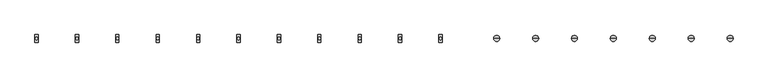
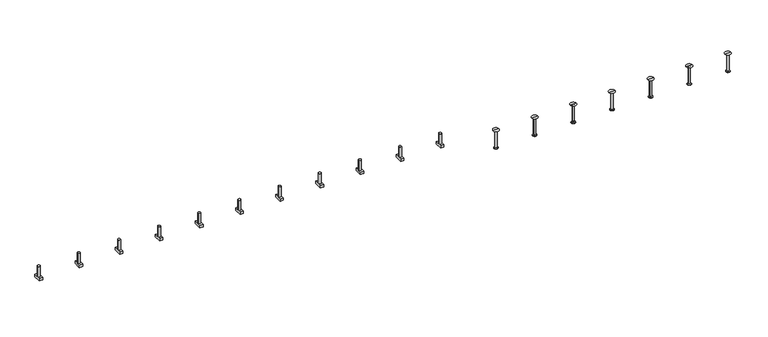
"""IFC4 building model written with IfcOpenShell, lengths in millimetres: fastener geometry, JTA-K JORDAHL® AnchorChannels : JTA-K L=6000 mm."""

from ifc_helpers import new_model, si_unit, frame, origin, place, context, project, spatial, polyline, circle_curve, source, transform, mapped, element, save
from ifc_brep_helpers import plane_surface, cylinder_surface, revolved_surface, advanced_brep


def fastener_c084cefd(model_context):
    return source(origin(), model_context, "Body", "AdvancedBrep", [
        advanced_brep(
        [(3474.3421053, -29.0, -6.0), (3474.3421053, -29.0, -26.0), (3474.3421053, 29.0, -26.0), (3474.3421053, 29.0, -6.0), (3449.3421053, -29.0, -6.0), (3449.3421053, 29.0, -6.0), (3449.3421053, 29.0, -26.0), (3449.3421053, -29.0, -26.0), (3471.8421053, 0.0, -6.0), (3451.8421053, 0.0, -6.0), (3451.8421053, 0.0, 74.0), (3471.8421053, 0.0, 74.0)],
        [
            (0, 1),
            (1, 2),
            (2, 3),
            (3, 0),
            (4, 5),
            (5, 6),
            (6, 7),
            (7, 4),
            (3, 5),
            (4, 0),
            (8, 9, circle_curve(frame((3461.8421053, 0.0, -6.0), z_axis=(0.0, 0.0, -1.0), x_axis=(1.0, 0.0, 0.0)), 10.0)),
            (9, 8, circle_curve(frame((3461.8421053, 0.0, -6.0), z_axis=(0.0, 0.0, -1.0), x_axis=(1.0, 0.0, 0.0)), 10.0)),
            (2, 6),
            (1, 7),
            (10, 11, circle_curve(frame((3461.8421053, 0.0, 74.0), z_axis=(0.0, 0.0, 1.0), x_axis=(1.0, 0.0, 0.0)), 10.0)),
            (11, 10, circle_curve(frame((3461.8421053, 0.0, 74.0), z_axis=(0.0, 0.0, 1.0), x_axis=(1.0, 0.0, 0.0)), 10.0)),
            (11, 8),
            (9, 10),
        ],
        [
            plane_surface(frame((3474.3421053, 29.0, -6.0), z_axis=(1.0, 0.0, 0.0), x_axis=(0.0, 1.0, 0.0))),
            plane_surface(frame((3449.3421053, 29.0, -6.0), z_axis=(-1.0, 0.0, 0.0), x_axis=(0.0, -1.0, 0.0))),
            plane_surface(frame((3474.3421053, -29.0, -6.0), z_axis=(0.0, 0.0, 1.0), x_axis=(-1.0, 0.0, 0.0))),
            plane_surface(frame((3474.3421053, 29.0, -6.0), z_axis=(0.0, 1.0, 0.0), x_axis=(-1.0, 0.0, 0.0))),
            plane_surface(frame((3474.3421053, 29.0, -26.0), z_axis=(0.0, 0.0, -1.0), x_axis=(-1.0, 0.0, 0.0))),
            plane_surface(frame((3474.3421053, -29.0, -26.0), z_axis=(0.0, -1.0, 0.0), x_axis=(-1.0, 0.0, 0.0))),
            plane_surface(frame((3471.8421053, 0.0, 74.0), z_axis=(0.0, 0.0, 1.0), x_axis=(0.0, -1.0, 0.0))),
            cylinder_surface(frame((3461.8421053, 0.0, -6.0), z_axis=(0.0, 0.0, 1.0), x_axis=(1.0, 0.0, 0.0)), 10.0),
        ],
        [
            (0, [[1, 2, 3, 4]]),
            (1, [[5, 6, 7, 8]]),
            (2, [[9, -5, 10, -4], [11, 12]]),
            (3, [[13, -6, -9, -3]]),
            (4, [[14, -7, -13, -2]]),
            (5, [[-10, -8, -14, -1]]),
            (6, [[15, 16]]),
            (7, [[17, -12, 18, -16]]),
            (7, [[-18, -11, -17, -15]]),
        ],
    ),
        advanced_brep(
        [(3166.4473684, -29.0, -6.0), (3166.4473684, -29.0, -26.0), (3166.4473684, 29.0, -26.0), (3166.4473684, 29.0, -6.0), (3141.4473684, -29.0, -6.0), (3141.4473684, 29.0, -6.0), (3141.4473684, 29.0, -26.0), (3141.4473684, -29.0, -26.0), (3163.9473684, 0.0, -6.0), (3143.9473684, 0.0, -6.0), (3143.9473684, 0.0, 74.0), (3163.9473684, 0.0, 74.0)],
        [
            (0, 1),
            (1, 2),
            (2, 3),
            (3, 0),
            (4, 5),
            (5, 6),
            (6, 7),
            (7, 4),
            (3, 5),
            (4, 0),
            (8, 9, circle_curve(frame((3153.9473684, 0.0, -6.0), z_axis=(0.0, 0.0, -1.0), x_axis=(1.0, 0.0, 0.0)), 10.0)),
            (9, 8, circle_curve(frame((3153.9473684, 0.0, -6.0), z_axis=(0.0, 0.0, -1.0), x_axis=(1.0, 0.0, 0.0)), 10.0)),
            (2, 6),
            (1, 7),
            (10, 11, circle_curve(frame((3153.9473684, 0.0, 74.0), z_axis=(0.0, 0.0, 1.0), x_axis=(1.0, 0.0, 0.0)), 10.0)),
            (11, 10, circle_curve(frame((3153.9473684, 0.0, 74.0), z_axis=(0.0, 0.0, 1.0), x_axis=(1.0, 0.0, 0.0)), 10.0)),
            (11, 8),
            (9, 10),
        ],
        [
            plane_surface(frame((3166.4473684, 29.0, -6.0), z_axis=(1.0, 0.0, 0.0), x_axis=(0.0, 1.0, 0.0))),
            plane_surface(frame((3141.4473684, 29.0, -6.0), z_axis=(-1.0, 0.0, 0.0), x_axis=(0.0, -1.0, 0.0))),
            plane_surface(frame((3166.4473684, -29.0, -6.0), z_axis=(0.0, 0.0, 1.0), x_axis=(-1.0, 0.0, 0.0))),
            plane_surface(frame((3166.4473684, 29.0, -6.0), z_axis=(0.0, 1.0, 0.0), x_axis=(-1.0, 0.0, 0.0))),
            plane_surface(frame((3166.4473684, 29.0, -26.0), z_axis=(0.0, 0.0, -1.0), x_axis=(-1.0, 0.0, 0.0))),
            plane_surface(frame((3166.4473684, -29.0, -26.0), z_axis=(0.0, -1.0, 0.0), x_axis=(-1.0, 0.0, 0.0))),
            plane_surface(frame((3163.9473684, 0.0, 74.0), z_axis=(0.0, 0.0, 1.0), x_axis=(0.0, -1.0, 0.0))),
            cylinder_surface(frame((3153.9473684, 0.0, -6.0), z_axis=(0.0, 0.0, 1.0), x_axis=(1.0, 0.0, 0.0)), 10.0),
        ],
        [
            (0, [[1, 2, 3, 4]]),
            (1, [[5, 6, 7, 8]]),
            (2, [[9, -5, 10, -4], [11, 12]]),
            (3, [[13, -6, -9, -3]]),
            (4, [[14, -7, -13, -2]]),
            (5, [[-10, -8, -14, -1]]),
            (6, [[15, 16]]),
            (7, [[17, -12, 18, -16]]),
            (7, [[-18, -11, -17, -15]]),
        ],
    ),
        advanced_brep(
        [(2858.5526316, -29.0, -6.0), (2858.5526316, -29.0, -26.0), (2858.5526316, 29.0, -26.0), (2858.5526316, 29.0, -6.0), (2833.5526316, -29.0, -6.0), (2833.5526316, 29.0, -6.0), (2833.5526316, 29.0, -26.0), (2833.5526316, -29.0, -26.0), (2856.0526316, 0.0, -6.0), (2836.0526316, 0.0, -6.0), (2836.0526316, 0.0, 74.0), (2856.0526316, 0.0, 74.0)],
        [
            (0, 1),
            (1, 2),
            (2, 3),
            (3, 0),
            (4, 5),
            (5, 6),
            (6, 7),
            (7, 4),
            (3, 5),
            (4, 0),
            (8, 9, circle_curve(frame((2846.0526316, 0.0, -6.0), z_axis=(0.0, 0.0, -1.0), x_axis=(1.0, 0.0, 0.0)), 10.0)),
            (9, 8, circle_curve(frame((2846.0526316, 0.0, -6.0), z_axis=(0.0, 0.0, -1.0), x_axis=(1.0, 0.0, 0.0)), 10.0)),
            (2, 6),
            (1, 7),
            (10, 11, circle_curve(frame((2846.0526316, 0.0, 74.0), z_axis=(0.0, 0.0, 1.0), x_axis=(1.0, 0.0, 0.0)), 10.0)),
            (11, 10, circle_curve(frame((2846.0526316, 0.0, 74.0), z_axis=(0.0, 0.0, 1.0), x_axis=(1.0, 0.0, 0.0)), 10.0)),
            (11, 8),
            (9, 10),
        ],
        [
            plane_surface(frame((2858.5526316, 29.0, -6.0), z_axis=(1.0, 0.0, 0.0), x_axis=(0.0, 1.0, 0.0))),
            plane_surface(frame((2833.5526316, 29.0, -6.0), z_axis=(-1.0, 0.0, 0.0), x_axis=(0.0, -1.0, 0.0))),
            plane_surface(frame((2858.5526316, -29.0, -6.0), z_axis=(0.0, 0.0, 1.0), x_axis=(-1.0, 0.0, 0.0))),
            plane_surface(frame((2858.5526316, 29.0, -6.0), z_axis=(0.0, 1.0, 0.0), x_axis=(-1.0, 0.0, 0.0))),
            plane_surface(frame((2858.5526316, 29.0, -26.0), z_axis=(0.0, 0.0, -1.0), x_axis=(-1.0, 0.0, 0.0))),
            plane_surface(frame((2858.5526316, -29.0, -26.0), z_axis=(0.0, -1.0, 0.0), x_axis=(-1.0, 0.0, 0.0))),
            plane_surface(frame((2856.0526316, 0.0, 74.0), z_axis=(0.0, 0.0, 1.0), x_axis=(0.0, -1.0, 0.0))),
            cylinder_surface(frame((2846.0526316, 0.0, -6.0), z_axis=(0.0, 0.0, 1.0), x_axis=(1.0, 0.0, 0.0)), 10.0),
        ],
        [
            (0, [[1, 2, 3, 4]]),
            (1, [[5, 6, 7, 8]]),
            (2, [[9, -5, 10, -4], [11, 12]]),
            (3, [[13, -6, -9, -3]]),
            (4, [[14, -7, -13, -2]]),
            (5, [[-10, -8, -14, -1]]),
            (6, [[15, 16]]),
            (7, [[17, -12, 18, -16]]),
            (7, [[-18, -11, -17, -15]]),
        ],
    ),
        advanced_brep(
        [(2550.6578947, -29.0, -6.0), (2550.6578947, -29.0, -26.0), (2550.6578947, 29.0, -26.0), (2550.6578947, 29.0, -6.0), (2525.6578947, -29.0, -6.0), (2525.6578947, 29.0, -6.0), (2525.6578947, 29.0, -26.0), (2525.6578947, -29.0, -26.0), (2548.1578947, 0.0, -6.0), (2528.1578947, 0.0, -6.0), (2528.1578947, 0.0, 74.0), (2548.1578947, 0.0, 74.0)],
        [
            (0, 1),
            (1, 2),
            (2, 3),
            (3, 0),
            (4, 5),
            (5, 6),
            (6, 7),
            (7, 4),
            (3, 5),
            (4, 0),
            (8, 9, circle_curve(frame((2538.1578947, 0.0, -6.0), z_axis=(0.0, 0.0, -1.0), x_axis=(1.0, 0.0, 0.0)), 10.0)),
            (9, 8, circle_curve(frame((2538.1578947, 0.0, -6.0), z_axis=(0.0, 0.0, -1.0), x_axis=(1.0, 0.0, 0.0)), 10.0)),
            (2, 6),
            (1, 7),
            (10, 11, circle_curve(frame((2538.1578947, 0.0, 74.0), z_axis=(0.0, 0.0, 1.0), x_axis=(1.0, 0.0, 0.0)), 10.0)),
            (11, 10, circle_curve(frame((2538.1578947, 0.0, 74.0), z_axis=(0.0, 0.0, 1.0), x_axis=(1.0, 0.0, 0.0)), 10.0)),
            (11, 8),
            (9, 10),
        ],
        [
            plane_surface(frame((2550.6578947, 29.0, -6.0), z_axis=(1.0, 0.0, 0.0), x_axis=(0.0, 1.0, 0.0))),
            plane_surface(frame((2525.6578947, 29.0, -6.0), z_axis=(-1.0, 0.0, 0.0), x_axis=(0.0, -1.0, 0.0))),
            plane_surface(frame((2550.6578947, -29.0, -6.0), z_axis=(0.0, 0.0, 1.0), x_axis=(-1.0, 0.0, 0.0))),
            plane_surface(frame((2550.6578947, 29.0, -6.0), z_axis=(0.0, 1.0, 0.0), x_axis=(-1.0, 0.0, 0.0))),
            plane_surface(frame((2550.6578947, 29.0, -26.0), z_axis=(0.0, 0.0, -1.0), x_axis=(-1.0, 0.0, 0.0))),
            plane_surface(frame((2550.6578947, -29.0, -26.0), z_axis=(0.0, -1.0, 0.0), x_axis=(-1.0, 0.0, 0.0))),
            plane_surface(frame((2548.1578947, 0.0, 74.0), z_axis=(0.0, 0.0, 1.0), x_axis=(0.0, -1.0, 0.0))),
            cylinder_surface(frame((2538.1578947, 0.0, -6.0), z_axis=(0.0, 0.0, 1.0), x_axis=(1.0, 0.0, 0.0)), 10.0),
        ],
        [
            (0, [[1, 2, 3, 4]]),
            (1, [[5, 6, 7, 8]]),
            (2, [[9, -5, 10, -4], [11, 12]]),
            (3, [[13, -6, -9, -3]]),
            (4, [[14, -7, -13, -2]]),
            (5, [[-10, -8, -14, -1]]),
            (6, [[15, 16]]),
            (7, [[17, -12, 18, -16]]),
            (7, [[-18, -11, -17, -15]]),
        ],
    ),
        advanced_brep(
        [(2242.7631579, -29.0, -6.0), (2242.7631579, -29.0, -26.0), (2242.7631579, 29.0, -26.0), (2242.7631579, 29.0, -6.0), (2217.7631579, -29.0, -6.0), (2217.7631579, 29.0, -6.0), (2217.7631579, 29.0, -26.0), (2217.7631579, -29.0, -26.0), (2240.2631579, 0.0, -6.0), (2220.2631579, 0.0, -6.0), (2220.2631579, 0.0, 74.0), (2240.2631579, 0.0, 74.0)],
        [
            (0, 1),
            (1, 2),
            (2, 3),
            (3, 0),
            (4, 5),
            (5, 6),
            (6, 7),
            (7, 4),
            (3, 5),
            (4, 0),
            (8, 9, circle_curve(frame((2230.2631579, 0.0, -6.0), z_axis=(0.0, 0.0, -1.0), x_axis=(1.0, 0.0, 0.0)), 10.0)),
            (9, 8, circle_curve(frame((2230.2631579, 0.0, -6.0), z_axis=(0.0, 0.0, -1.0), x_axis=(1.0, 0.0, 0.0)), 10.0)),
            (2, 6),
            (1, 7),
            (10, 11, circle_curve(frame((2230.2631579, 0.0, 74.0), z_axis=(0.0, 0.0, 1.0), x_axis=(1.0, 0.0, 0.0)), 10.0)),
            (11, 10, circle_curve(frame((2230.2631579, 0.0, 74.0), z_axis=(0.0, 0.0, 1.0), x_axis=(1.0, 0.0, 0.0)), 10.0)),
            (11, 8),
            (9, 10),
        ],
        [
            plane_surface(frame((2242.7631579, 29.0, -6.0), z_axis=(1.0, 0.0, 0.0), x_axis=(0.0, 1.0, 0.0))),
            plane_surface(frame((2217.7631579, 29.0, -6.0), z_axis=(-1.0, 0.0, 0.0), x_axis=(0.0, -1.0, 0.0))),
            plane_surface(frame((2242.7631579, -29.0, -6.0), z_axis=(0.0, 0.0, 1.0), x_axis=(-1.0, 0.0, 0.0))),
            plane_surface(frame((2242.7631579, 29.0, -6.0), z_axis=(0.0, 1.0, 0.0), x_axis=(-1.0, 0.0, 0.0))),
            plane_surface(frame((2242.7631579, 29.0, -26.0), z_axis=(0.0, 0.0, -1.0), x_axis=(-1.0, 0.0, 0.0))),
            plane_surface(frame((2242.7631579, -29.0, -26.0), z_axis=(0.0, -1.0, 0.0), x_axis=(-1.0, 0.0, 0.0))),
            plane_surface(frame((2240.2631579, 0.0, 74.0), z_axis=(0.0, 0.0, 1.0), x_axis=(0.0, -1.0, 0.0))),
            cylinder_surface(frame((2230.2631579, 0.0, -6.0), z_axis=(0.0, 0.0, 1.0), x_axis=(1.0, 0.0, 0.0)), 10.0),
        ],
        [
            (0, [[1, 2, 3, 4]]),
            (1, [[5, 6, 7, 8]]),
            (2, [[9, -5, 10, -4], [11, 12]]),
            (3, [[13, -6, -9, -3]]),
            (4, [[14, -7, -13, -2]]),
            (5, [[-10, -8, -14, -1]]),
            (6, [[15, 16]]),
            (7, [[17, -12, 18, -16]]),
            (7, [[-18, -11, -17, -15]]),
        ],
    ),
        advanced_brep(
        [(1934.8684211, -29.0, -6.0), (1934.8684211, -29.0, -26.0), (1934.8684211, 29.0, -26.0), (1934.8684211, 29.0, -6.0), (1909.8684211, -29.0, -6.0), (1909.8684211, 29.0, -6.0), (1909.8684211, 29.0, -26.0), (1909.8684211, -29.0, -26.0), (1932.3684211, 0.0, -6.0), (1912.3684211, 0.0, -6.0), (1912.3684211, 0.0, 74.0), (1932.3684211, 0.0, 74.0)],
        [
            (0, 1),
            (1, 2),
            (2, 3),
            (3, 0),
            (4, 5),
            (5, 6),
            (6, 7),
            (7, 4),
            (3, 5),
            (4, 0),
            (8, 9, circle_curve(frame((1922.3684211, 0.0, -6.0), z_axis=(0.0, 0.0, -1.0), x_axis=(1.0, 0.0, 0.0)), 10.0)),
            (9, 8, circle_curve(frame((1922.3684211, 0.0, -6.0), z_axis=(0.0, 0.0, -1.0), x_axis=(1.0, 0.0, 0.0)), 10.0)),
            (2, 6),
            (1, 7),
            (10, 11, circle_curve(frame((1922.3684211, 0.0, 74.0), z_axis=(0.0, 0.0, 1.0), x_axis=(1.0, 0.0, 0.0)), 10.0)),
            (11, 10, circle_curve(frame((1922.3684211, 0.0, 74.0), z_axis=(0.0, 0.0, 1.0), x_axis=(1.0, 0.0, 0.0)), 10.0)),
            (11, 8),
            (9, 10),
        ],
        [
            plane_surface(frame((1934.8684211, 29.0, -6.0), z_axis=(1.0, 0.0, 0.0), x_axis=(0.0, 1.0, 0.0))),
            plane_surface(frame((1909.8684211, 29.0, -6.0), z_axis=(-1.0, 0.0, 0.0), x_axis=(0.0, -1.0, 0.0))),
            plane_surface(frame((1934.8684211, -29.0, -6.0), z_axis=(0.0, 0.0, 1.0), x_axis=(-1.0, 0.0, 0.0))),
            plane_surface(frame((1934.8684211, 29.0, -6.0), z_axis=(0.0, 1.0, 0.0), x_axis=(-1.0, 0.0, 0.0))),
            plane_surface(frame((1934.8684211, 29.0, -26.0), z_axis=(0.0, 0.0, -1.0), x_axis=(-1.0, 0.0, 0.0))),
            plane_surface(frame((1934.8684211, -29.0, -26.0), z_axis=(0.0, -1.0, 0.0), x_axis=(-1.0, 0.0, 0.0))),
            plane_surface(frame((1932.3684211, 0.0, 74.0), z_axis=(0.0, 0.0, 1.0), x_axis=(0.0, -1.0, 0.0))),
            cylinder_surface(frame((1922.3684211, 0.0, -6.0), z_axis=(0.0, 0.0, 1.0), x_axis=(1.0, 0.0, 0.0)), 10.0),
        ],
        [
            (0, [[1, 2, 3, 4]]),
            (1, [[5, 6, 7, 8]]),
            (2, [[9, -5, 10, -4], [11, 12]]),
            (3, [[13, -6, -9, -3]]),
            (4, [[14, -7, -13, -2]]),
            (5, [[-10, -8, -14, -1]]),
            (6, [[15, 16]]),
            (7, [[17, -12, 18, -16]]),
            (7, [[-18, -11, -17, -15]]),
        ],
    ),
        advanced_brep(
        [(1626.9736842, -29.0, -6.0), (1626.9736842, -29.0, -26.0), (1626.9736842, 29.0, -26.0), (1626.9736842, 29.0, -6.0), (1601.9736842, -29.0, -6.0), (1601.9736842, 29.0, -6.0), (1601.9736842, 29.0, -26.0), (1601.9736842, -29.0, -26.0), (1624.4736842, 0.0, -6.0), (1604.4736842, 0.0, -6.0), (1604.4736842, 0.0, 74.0), (1624.4736842, 0.0, 74.0)],
        [
            (0, 1),
            (1, 2),
            (2, 3),
            (3, 0),
            (4, 5),
            (5, 6),
            (6, 7),
            (7, 4),
            (3, 5),
            (4, 0),
            (8, 9, circle_curve(frame((1614.4736842, 0.0, -6.0), z_axis=(0.0, 0.0, -1.0), x_axis=(1.0, 0.0, 0.0)), 10.0)),
            (9, 8, circle_curve(frame((1614.4736842, 0.0, -6.0), z_axis=(0.0, 0.0, -1.0), x_axis=(1.0, 0.0, 0.0)), 10.0)),
            (2, 6),
            (1, 7),
            (10, 11, circle_curve(frame((1614.4736842, 0.0, 74.0), z_axis=(0.0, 0.0, 1.0), x_axis=(1.0, 0.0, 0.0)), 10.0)),
            (11, 10, circle_curve(frame((1614.4736842, 0.0, 74.0), z_axis=(0.0, 0.0, 1.0), x_axis=(1.0, 0.0, 0.0)), 10.0)),
            (11, 8),
            (9, 10),
        ],
        [
            plane_surface(frame((1626.9736842, 29.0, -6.0), z_axis=(1.0, 0.0, 0.0), x_axis=(0.0, 1.0, 0.0))),
            plane_surface(frame((1601.9736842, 29.0, -6.0), z_axis=(-1.0, 0.0, 0.0), x_axis=(0.0, -1.0, 0.0))),
            plane_surface(frame((1626.9736842, -29.0, -6.0), z_axis=(0.0, 0.0, 1.0), x_axis=(-1.0, 0.0, 0.0))),
            plane_surface(frame((1626.9736842, 29.0, -6.0), z_axis=(0.0, 1.0, 0.0), x_axis=(-1.0, 0.0, 0.0))),
            plane_surface(frame((1626.9736842, 29.0, -26.0), z_axis=(0.0, 0.0, -1.0), x_axis=(-1.0, 0.0, 0.0))),
            plane_surface(frame((1626.9736842, -29.0, -26.0), z_axis=(0.0, -1.0, 0.0), x_axis=(-1.0, 0.0, 0.0))),
            plane_surface(frame((1624.4736842, 0.0, 74.0), z_axis=(0.0, 0.0, 1.0), x_axis=(0.0, -1.0, 0.0))),
            cylinder_surface(frame((1614.4736842, 0.0, -6.0), z_axis=(0.0, 0.0, 1.0), x_axis=(1.0, 0.0, 0.0)), 10.0),
        ],
        [
            (0, [[1, 2, 3, 4]]),
            (1, [[5, 6, 7, 8]]),
            (2, [[9, -5, 10, -4], [11, 12]]),
            (3, [[13, -6, -9, -3]]),
            (4, [[14, -7, -13, -2]]),
            (5, [[-10, -8, -14, -1]]),
            (6, [[15, 16]]),
            (7, [[17, -12, 18, -16]]),
            (7, [[-18, -11, -17, -15]]),
        ],
    ),
        advanced_brep(
        [(1319.0789474, -29.0, -6.0), (1319.0789474, -29.0, -26.0), (1319.0789474, 29.0, -26.0), (1319.0789474, 29.0, -6.0), (1294.0789474, -29.0, -6.0), (1294.0789474, 29.0, -6.0), (1294.0789474, 29.0, -26.0), (1294.0789474, -29.0, -26.0), (1316.5789474, 0.0, -6.0), (1296.5789474, 0.0, -6.0), (1296.5789474, 0.0, 74.0), (1316.5789474, 0.0, 74.0)],
        [
            (0, 1),
            (1, 2),
            (2, 3),
            (3, 0),
            (4, 5),
            (5, 6),
            (6, 7),
            (7, 4),
            (3, 5),
            (4, 0),
            (8, 9, circle_curve(frame((1306.5789474, 0.0, -6.0), z_axis=(0.0, 0.0, -1.0), x_axis=(1.0, 0.0, 0.0)), 10.0)),
            (9, 8, circle_curve(frame((1306.5789474, 0.0, -6.0), z_axis=(0.0, 0.0, -1.0), x_axis=(1.0, 0.0, 0.0)), 10.0)),
            (2, 6),
            (1, 7),
            (10, 11, circle_curve(frame((1306.5789474, 0.0, 74.0), z_axis=(0.0, 0.0, 1.0), x_axis=(1.0, 0.0, 0.0)), 10.0)),
            (11, 10, circle_curve(frame((1306.5789474, 0.0, 74.0), z_axis=(0.0, 0.0, 1.0), x_axis=(1.0, 0.0, 0.0)), 10.0)),
            (11, 8),
            (9, 10),
        ],
        [
            plane_surface(frame((1319.0789474, 29.0, -6.0), z_axis=(1.0, 0.0, 0.0), x_axis=(0.0, 1.0, 0.0))),
            plane_surface(frame((1294.0789474, 29.0, -6.0), z_axis=(-1.0, 0.0, 0.0), x_axis=(0.0, -1.0, 0.0))),
            plane_surface(frame((1319.0789474, -29.0, -6.0), z_axis=(0.0, 0.0, 1.0), x_axis=(-1.0, 0.0, 0.0))),
            plane_surface(frame((1319.0789474, 29.0, -6.0), z_axis=(0.0, 1.0, 0.0), x_axis=(-1.0, 0.0, 0.0))),
            plane_surface(frame((1319.0789474, 29.0, -26.0), z_axis=(0.0, 0.0, -1.0), x_axis=(-1.0, 0.0, 0.0))),
            plane_surface(frame((1319.0789474, -29.0, -26.0), z_axis=(0.0, -1.0, 0.0), x_axis=(-1.0, 0.0, 0.0))),
            plane_surface(frame((1316.5789474, 0.0, 74.0), z_axis=(0.0, 0.0, 1.0), x_axis=(0.0, -1.0, 0.0))),
            cylinder_surface(frame((1306.5789474, 0.0, -6.0), z_axis=(0.0, 0.0, 1.0), x_axis=(1.0, 0.0, 0.0)), 10.0),
        ],
        [
            (0, [[1, 2, 3, 4]]),
            (1, [[5, 6, 7, 8]]),
            (2, [[9, -5, 10, -4], [11, 12]]),
            (3, [[13, -6, -9, -3]]),
            (4, [[14, -7, -13, -2]]),
            (5, [[-10, -8, -14, -1]]),
            (6, [[15, 16]]),
            (7, [[17, -12, 18, -16]]),
            (7, [[-18, -11, -17, -15]]),
        ],
    ),
        advanced_brep(
        [(1011.1842105, -29.0, -6.0), (1011.1842105, -29.0, -26.0), (1011.1842105, 29.0, -26.0), (1011.1842105, 29.0, -6.0), (986.1842105, -29.0, -6.0), (986.1842105, 29.0, -6.0), (986.1842105, 29.0, -26.0), (986.1842105, -29.0, -26.0), (1008.6842105, 0.0, -6.0), (988.6842105, 0.0, -6.0), (988.6842105, 0.0, 74.0), (1008.6842105, 0.0, 74.0)],
        [
            (0, 1),
            (1, 2),
            (2, 3),
            (3, 0),
            (4, 5),
            (5, 6),
            (6, 7),
            (7, 4),
            (3, 5),
            (4, 0),
            (8, 9, circle_curve(frame((998.6842105, 0.0, -6.0), z_axis=(0.0, 0.0, -1.0), x_axis=(1.0, 0.0, 0.0)), 10.0)),
            (9, 8, circle_curve(frame((998.6842105, 0.0, -6.0), z_axis=(0.0, 0.0, -1.0), x_axis=(1.0, 0.0, 0.0)), 10.0)),
            (2, 6),
            (1, 7),
            (10, 11, circle_curve(frame((998.6842105, 0.0, 74.0), z_axis=(0.0, 0.0, 1.0), x_axis=(1.0, 0.0, 0.0)), 10.0)),
            (11, 10, circle_curve(frame((998.6842105, 0.0, 74.0), z_axis=(0.0, 0.0, 1.0), x_axis=(1.0, 0.0, 0.0)), 10.0)),
            (11, 8),
            (9, 10),
        ],
        [
            plane_surface(frame((1011.1842105, 29.0, -6.0), z_axis=(1.0, 0.0, 0.0), x_axis=(0.0, 1.0, 0.0))),
            plane_surface(frame((986.1842105, 29.0, -6.0), z_axis=(-1.0, 0.0, 0.0), x_axis=(0.0, -1.0, 0.0))),
            plane_surface(frame((1011.1842105, -29.0, -6.0), z_axis=(0.0, 0.0, 1.0), x_axis=(-1.0, 0.0, 0.0))),
            plane_surface(frame((1011.1842105, 29.0, -6.0), z_axis=(0.0, 1.0, 0.0), x_axis=(-1.0, 0.0, 0.0))),
            plane_surface(frame((1011.1842105, 29.0, -26.0), z_axis=(0.0, 0.0, -1.0), x_axis=(-1.0, 0.0, 0.0))),
            plane_surface(frame((1011.1842105, -29.0, -26.0), z_axis=(0.0, -1.0, 0.0), x_axis=(-1.0, 0.0, 0.0))),
            plane_surface(frame((1008.6842105, 0.0, 74.0), z_axis=(0.0, 0.0, 1.0), x_axis=(0.0, -1.0, 0.0))),
            cylinder_surface(frame((998.6842105, 0.0, -6.0), z_axis=(0.0, 0.0, 1.0), x_axis=(1.0, 0.0, 0.0)), 10.0),
        ],
        [
            (0, [[1, 2, 3, 4]]),
            (1, [[5, 6, 7, 8]]),
            (2, [[9, -5, 10, -4], [11, 12]]),
            (3, [[13, -6, -9, -3]]),
            (4, [[14, -7, -13, -2]]),
            (5, [[-10, -8, -14, -1]]),
            (6, [[15, 16]]),
            (7, [[17, -12, 18, -16]]),
            (7, [[-18, -11, -17, -15]]),
        ],
    ),
        advanced_brep(
        [(703.2894737, -29.0, -6.0), (703.2894737, -29.0, -26.0), (703.2894737, 29.0, -26.0), (703.2894737, 29.0, -6.0), (678.2894737, -29.0, -6.0), (678.2894737, 29.0, -6.0), (678.2894737, 29.0, -26.0), (678.2894737, -29.0, -26.0), (700.7894737, 0.0, -6.0), (680.7894737, 0.0, -6.0), (680.7894737, 0.0, 74.0), (700.7894737, 0.0, 74.0)],
        [
            (0, 1),
            (1, 2),
            (2, 3),
            (3, 0),
            (4, 5),
            (5, 6),
            (6, 7),
            (7, 4),
            (3, 5),
            (4, 0),
            (8, 9, circle_curve(frame((690.7894737, 0.0, -6.0), z_axis=(0.0, 0.0, -1.0), x_axis=(1.0, 0.0, 0.0)), 10.0)),
            (9, 8, circle_curve(frame((690.7894737, 0.0, -6.0), z_axis=(0.0, 0.0, -1.0), x_axis=(1.0, 0.0, 0.0)), 10.0)),
            (2, 6),
            (1, 7),
            (10, 11, circle_curve(frame((690.7894737, 0.0, 74.0), z_axis=(0.0, 0.0, 1.0), x_axis=(1.0, 0.0, 0.0)), 10.0)),
            (11, 10, circle_curve(frame((690.7894737, 0.0, 74.0), z_axis=(0.0, 0.0, 1.0), x_axis=(1.0, 0.0, 0.0)), 10.0)),
            (11, 8),
            (9, 10),
        ],
        [
            plane_surface(frame((703.2894737, 29.0, -6.0), z_axis=(1.0, 0.0, 0.0), x_axis=(0.0, 1.0, 0.0))),
            plane_surface(frame((678.2894737, 29.0, -6.0), z_axis=(-1.0, 0.0, 0.0), x_axis=(0.0, -1.0, 0.0))),
            plane_surface(frame((703.2894737, -29.0, -6.0), z_axis=(0.0, 0.0, 1.0), x_axis=(-1.0, 0.0, 0.0))),
            plane_surface(frame((703.2894737, 29.0, -6.0), z_axis=(0.0, 1.0, 0.0), x_axis=(-1.0, 0.0, 0.0))),
            plane_surface(frame((703.2894737, 29.0, -26.0), z_axis=(0.0, 0.0, -1.0), x_axis=(-1.0, 0.0, 0.0))),
            plane_surface(frame((703.2894737, -29.0, -26.0), z_axis=(0.0, -1.0, 0.0), x_axis=(-1.0, 0.0, 0.0))),
            plane_surface(frame((700.7894737, 0.0, 74.0), z_axis=(0.0, 0.0, 1.0), x_axis=(0.0, -1.0, 0.0))),
            cylinder_surface(frame((690.7894737, 0.0, -6.0), z_axis=(0.0, 0.0, 1.0), x_axis=(1.0, 0.0, 0.0)), 10.0),
        ],
        [
            (0, [[1, 2, 3, 4]]),
            (1, [[5, 6, 7, 8]]),
            (2, [[9, -5, 10, -4], [11, 12]]),
            (3, [[13, -6, -9, -3]]),
            (4, [[14, -7, -13, -2]]),
            (5, [[-10, -8, -14, -1]]),
            (6, [[15, 16]]),
            (7, [[17, -12, 18, -16]]),
            (7, [[-18, -11, -17, -15]]),
        ],
    ),
        advanced_brep(
        [(395.3947368, -29.0, -6.0), (395.3947368, -29.0, -26.0), (395.3947368, 29.0, -26.0), (395.3947368, 29.0, -6.0), (370.3947368, -29.0, -6.0), (370.3947368, 29.0, -6.0), (370.3947368, 29.0, -26.0), (370.3947368, -29.0, -26.0), (392.8947368, 0.0, -6.0), (372.8947368, 0.0, -6.0), (372.8947368, 0.0, 74.0), (392.8947368, 0.0, 74.0)],
        [
            (0, 1),
            (1, 2),
            (2, 3),
            (3, 0),
            (4, 5),
            (5, 6),
            (6, 7),
            (7, 4),
            (3, 5),
            (4, 0),
            (8, 9, circle_curve(frame((382.8947368, 0.0, -6.0), z_axis=(0.0, 0.0, -1.0), x_axis=(1.0, 0.0, 0.0)), 10.0)),
            (9, 8, circle_curve(frame((382.8947368, 0.0, -6.0), z_axis=(0.0, 0.0, -1.0), x_axis=(1.0, 0.0, 0.0)), 10.0)),
            (2, 6),
            (1, 7),
            (10, 11, circle_curve(frame((382.8947368, 0.0, 74.0), z_axis=(0.0, 0.0, 1.0), x_axis=(1.0, 0.0, 0.0)), 10.0)),
            (11, 10, circle_curve(frame((382.8947368, 0.0, 74.0), z_axis=(0.0, 0.0, 1.0), x_axis=(1.0, 0.0, 0.0)), 10.0)),
            (11, 8),
            (9, 10),
        ],
        [
            plane_surface(frame((395.3947368, 29.0, -6.0), z_axis=(1.0, 0.0, 0.0), x_axis=(0.0, 1.0, 0.0))),
            plane_surface(frame((370.3947368, 29.0, -6.0), z_axis=(-1.0, 0.0, 0.0), x_axis=(0.0, -1.0, 0.0))),
            plane_surface(frame((395.3947368, -29.0, -6.0), z_axis=(0.0, 0.0, 1.0), x_axis=(-1.0, 0.0, 0.0))),
            plane_surface(frame((395.3947368, 29.0, -6.0), z_axis=(0.0, 1.0, 0.0), x_axis=(-1.0, 0.0, 0.0))),
            plane_surface(frame((395.3947368, 29.0, -26.0), z_axis=(0.0, 0.0, -1.0), x_axis=(-1.0, 0.0, 0.0))),
            plane_surface(frame((395.3947368, -29.0, -26.0), z_axis=(0.0, -1.0, 0.0), x_axis=(-1.0, 0.0, 0.0))),
            plane_surface(frame((392.8947368, 0.0, 74.0), z_axis=(0.0, 0.0, 1.0), x_axis=(0.0, -1.0, 0.0))),
            cylinder_surface(frame((382.8947368, 0.0, -6.0), z_axis=(0.0, 0.0, 1.0), x_axis=(1.0, 0.0, 0.0)), 10.0),
        ],
        [
            (0, [[1, 2, 3, 4]]),
            (1, [[5, 6, 7, 8]]),
            (2, [[9, -5, 10, -4], [11, 12]]),
            (3, [[13, -6, -9, -3]]),
            (4, [[14, -7, -13, -2]]),
            (5, [[-10, -8, -14, -1]]),
            (6, [[15, 16]]),
            (7, [[17, -12, 18, -16]]),
            (7, [[-18, -11, -17, -15]]),
        ],
    ),
        advanced_brep(
        [(5668.5, 0.0, -48.0), (5645.5, 0.0, -48.0), (5691.5, 0.0, -48.0), (5653.0, 0.0, -195.0), (5668.5, 0.0, -195.0), (5684.0, 0.0, -195.0), (5653.0, 0.0, -193.0), (5684.0, 0.0, -193.0), (5660.7, 0.0, -188.5544029), (5676.3, 0.0, -188.5544029), (5660.7, 0.0, -52.0), (5676.3, 0.0, -52.0)],
        [
            (0, 1),
            (1, 2, circle_curve(frame((5668.5, 0.0, -48.0), z_axis=(0.0, 0.0, 1.0), x_axis=(1.0, 0.0, 0.0)), 23.0)),
            (2, 0),
            (2, 1, circle_curve(frame((5668.5, 0.0, -48.0), z_axis=(0.0, 0.0, 1.0), x_axis=(1.0, 0.0, 0.0)), 23.0)),
            (3, 4),
            (4, 5),
            (5, 3, circle_curve(frame((5668.5, 0.0, -195.0), z_axis=(0.0, 0.0, -1.0), x_axis=(1.0, 0.0, 0.0)), 15.5)),
            (3, 5, circle_curve(frame((5668.5, 0.0, -195.0), z_axis=(0.0, 0.0, -1.0), x_axis=(1.0, 0.0, 0.0)), 15.5)),
            (6, 3),
            (5, 7),
            (7, 6, circle_curve(frame((5668.5, 0.0, -193.0), z_axis=(0.0, 0.0, -1.0), x_axis=(1.0, 0.0, 0.0)), 15.5)),
            (6, 7, circle_curve(frame((5668.5, 0.0, -193.0), z_axis=(0.0, 0.0, -1.0), x_axis=(1.0, 0.0, 0.0)), 15.5)),
            (8, 6),
            (7, 9),
            (9, 8, circle_curve(frame((5668.5, 0.0, -188.5544029), z_axis=(0.0, 0.0, -1.0), x_axis=(1.0, 0.0, 0.0)), 7.8)),
            (8, 9, circle_curve(frame((5668.5, 0.0, -188.5544029), z_axis=(0.0, 0.0, -1.0), x_axis=(1.0, 0.0, 0.0)), 7.8)),
            (10, 8),
            (9, 11),
            (11, 10, circle_curve(frame((5668.5, 0.0, -52.0), z_axis=(0.0, 0.0, -1.0), x_axis=(1.0, 0.0, 0.0)), 7.8)),
            (10, 11, circle_curve(frame((5668.5, 0.0, -52.0), z_axis=(0.0, 0.0, -1.0), x_axis=(1.0, 0.0, 0.0)), 7.8)),
            (1, 10),
            (11, 2),
        ],
        [
            plane_surface(frame((5668.5, 0.0, -48.0), z_axis=(0.0, 0.0, 1.0), x_axis=(1.0, 0.0, 0.0))),
            plane_surface(frame((5668.5, 0.0, -195.0), z_axis=(0.0, 0.0, -1.0), x_axis=(1.0, 0.0, 0.0))),
            cylinder_surface(frame((5668.5, 0.0, 2361.3150031), z_axis=(0.0, 0.0, 1.0), x_axis=(1.0, 0.0, 0.0)), 15.5),
            revolved_surface(polyline([(5684.0, 0.0, -193.0), (5676.3, 0.0, -188.5544029)]), (5668.5, 0.0, 2361.3150031), (0.0, 0.0, 1.0)),
            cylinder_surface(frame((5668.5, 0.0, 2361.3150031), z_axis=(0.0, 0.0, 1.0), x_axis=(1.0, 0.0, 0.0)), 7.8),
            revolved_surface(polyline([(5676.3, 0.0, -52.0), (5691.5, 0.0, -48.0)]), (5668.5, 0.0, 2361.3150031), (0.0, 0.0, 1.0)),
        ],
        [
            (0, [[1, 2, 3]]),
            (0, [[-3, 4, -1]]),
            (1, [[5, 6, 7]]),
            (1, [[-6, -5, 8]]),
            (2, [[9, -7, 10, 11]]),
            (2, [[-10, -8, -9, 12]]),
            (3, [[13, -11, 14, 15]]),
            (3, [[-14, -12, -13, 16]]),
            (4, [[17, -15, 18, 19]]),
            (4, [[-18, -16, -17, 20]]),
            (5, [[21, -19, 22, -2]]),
            (5, [[-22, -20, -21, -4]]),
        ],
    ),
        advanced_brep(
        [(5372.0, 0.0, -48.0), (5349.0, 0.0, -48.0), (5395.0, 0.0, -48.0), (5356.5, 0.0, -195.0), (5372.0, 0.0, -195.0), (5387.5, 0.0, -195.0), (5356.5, 0.0, -193.0), (5387.5, 0.0, -193.0), (5364.2, 0.0, -188.5544029), (5379.8, 0.0, -188.5544029), (5364.2, 0.0, -52.0), (5379.8, 0.0, -52.0)],
        [
            (0, 1),
            (1, 2, circle_curve(frame((5372.0, 0.0, -48.0), z_axis=(0.0, 0.0, 1.0), x_axis=(1.0, 0.0, 0.0)), 23.0)),
            (2, 0),
            (2, 1, circle_curve(frame((5372.0, 0.0, -48.0), z_axis=(0.0, 0.0, 1.0), x_axis=(1.0, 0.0, 0.0)), 23.0)),
            (3, 4),
            (4, 5),
            (5, 3, circle_curve(frame((5372.0, 0.0, -195.0), z_axis=(0.0, 0.0, -1.0), x_axis=(1.0, 0.0, 0.0)), 15.5)),
            (3, 5, circle_curve(frame((5372.0, 0.0, -195.0), z_axis=(0.0, 0.0, -1.0), x_axis=(1.0, 0.0, 0.0)), 15.5)),
            (6, 3),
            (5, 7),
            (7, 6, circle_curve(frame((5372.0, 0.0, -193.0), z_axis=(0.0, 0.0, -1.0), x_axis=(1.0, 0.0, 0.0)), 15.5)),
            (6, 7, circle_curve(frame((5372.0, 0.0, -193.0), z_axis=(0.0, 0.0, -1.0), x_axis=(1.0, 0.0, 0.0)), 15.5)),
            (8, 6),
            (7, 9),
            (9, 8, circle_curve(frame((5372.0, 0.0, -188.5544029), z_axis=(0.0, 0.0, -1.0), x_axis=(1.0, 0.0, 0.0)), 7.8)),
            (8, 9, circle_curve(frame((5372.0, 0.0, -188.5544029), z_axis=(0.0, 0.0, -1.0), x_axis=(1.0, 0.0, 0.0)), 7.8)),
            (10, 8),
            (9, 11),
            (11, 10, circle_curve(frame((5372.0, 0.0, -52.0), z_axis=(0.0, 0.0, -1.0), x_axis=(1.0, 0.0, 0.0)), 7.8)),
            (10, 11, circle_curve(frame((5372.0, 0.0, -52.0), z_axis=(0.0, 0.0, -1.0), x_axis=(1.0, 0.0, 0.0)), 7.8)),
            (1, 10),
            (11, 2),
        ],
        [
            plane_surface(frame((5372.0, 0.0, -48.0), z_axis=(0.0, 0.0, 1.0), x_axis=(1.0, 0.0, 0.0))),
            plane_surface(frame((5372.0, 0.0, -195.0), z_axis=(0.0, 0.0, -1.0), x_axis=(1.0, 0.0, 0.0))),
            cylinder_surface(frame((5372.0, 0.0, 2361.3150031), z_axis=(0.0, 0.0, 1.0), x_axis=(1.0, 0.0, 0.0)), 15.5),
            revolved_surface(polyline([(5387.5, 0.0, -193.0), (5379.8, 0.0, -188.5544029)]), (5372.0, 0.0, 2361.3150031), (0.0, 0.0, 1.0)),
            cylinder_surface(frame((5372.0, 0.0, 2361.3150031), z_axis=(0.0, 0.0, 1.0), x_axis=(1.0, 0.0, 0.0)), 7.8),
            revolved_surface(polyline([(5379.8, 0.0, -52.0), (5395.0, 0.0, -48.0)]), (5372.0, 0.0, 2361.3150031), (0.0, 0.0, 1.0)),
        ],
        [
            (0, [[1, 2, 3]]),
            (0, [[-3, 4, -1]]),
            (1, [[5, 6, 7]]),
            (1, [[-6, -5, 8]]),
            (2, [[9, -7, 10, 11]]),
            (2, [[-10, -8, -9, 12]]),
            (3, [[13, -11, 14, 15]]),
            (3, [[-14, -12, -13, 16]]),
            (4, [[17, -15, 18, 19]]),
            (4, [[-18, -16, -17, 20]]),
            (5, [[21, -19, 22, -2]]),
            (5, [[-22, -20, -21, -4]]),
        ],
    ),
        advanced_brep(
        [(5075.5, 0.0, -48.0), (5052.5, 0.0, -48.0), (5098.5, 0.0, -48.0), (5060.0, 0.0, -195.0), (5075.5, 0.0, -195.0), (5091.0, 0.0, -195.0), (5060.0, 0.0, -193.0), (5091.0, 0.0, -193.0), (5067.7, 0.0, -188.5544029), (5083.3, 0.0, -188.5544029), (5067.7, 0.0, -52.0), (5083.3, 0.0, -52.0)],
        [
            (0, 1),
            (1, 2, circle_curve(frame((5075.5, 0.0, -48.0), z_axis=(0.0, 0.0, 1.0), x_axis=(1.0, 0.0, 0.0)), 23.0)),
            (2, 0),
            (2, 1, circle_curve(frame((5075.5, 0.0, -48.0), z_axis=(0.0, 0.0, 1.0), x_axis=(1.0, 0.0, 0.0)), 23.0)),
            (3, 4),
            (4, 5),
            (5, 3, circle_curve(frame((5075.5, 0.0, -195.0), z_axis=(0.0, 0.0, -1.0), x_axis=(1.0, 0.0, 0.0)), 15.5)),
            (3, 5, circle_curve(frame((5075.5, 0.0, -195.0), z_axis=(0.0, 0.0, -1.0), x_axis=(1.0, 0.0, 0.0)), 15.5)),
            (6, 3),
            (5, 7),
            (7, 6, circle_curve(frame((5075.5, 0.0, -193.0), z_axis=(0.0, 0.0, -1.0), x_axis=(1.0, 0.0, 0.0)), 15.5)),
            (6, 7, circle_curve(frame((5075.5, 0.0, -193.0), z_axis=(0.0, 0.0, -1.0), x_axis=(1.0, 0.0, 0.0)), 15.5)),
            (8, 6),
            (7, 9),
            (9, 8, circle_curve(frame((5075.5, 0.0, -188.5544029), z_axis=(0.0, 0.0, -1.0), x_axis=(1.0, 0.0, 0.0)), 7.8)),
            (8, 9, circle_curve(frame((5075.5, 0.0, -188.5544029), z_axis=(0.0, 0.0, -1.0), x_axis=(1.0, 0.0, 0.0)), 7.8)),
            (10, 8),
            (9, 11),
            (11, 10, circle_curve(frame((5075.5, 0.0, -52.0), z_axis=(0.0, 0.0, -1.0), x_axis=(1.0, 0.0, 0.0)), 7.8)),
            (10, 11, circle_curve(frame((5075.5, 0.0, -52.0), z_axis=(0.0, 0.0, -1.0), x_axis=(1.0, 0.0, 0.0)), 7.8)),
            (1, 10),
            (11, 2),
        ],
        [
            plane_surface(frame((5075.5, 0.0, -48.0), z_axis=(0.0, 0.0, 1.0), x_axis=(1.0, 0.0, 0.0))),
            plane_surface(frame((5075.5, 0.0, -195.0), z_axis=(0.0, 0.0, -1.0), x_axis=(1.0, 0.0, 0.0))),
            cylinder_surface(frame((5075.5, 0.0, 2361.3150031), z_axis=(0.0, 0.0, 1.0), x_axis=(1.0, 0.0, 0.0)), 15.5),
            revolved_surface(polyline([(5091.0, 0.0, -193.0), (5083.3, 0.0, -188.5544029)]), (5075.5, 0.0, 2361.3150031), (0.0, 0.0, 1.0)),
            cylinder_surface(frame((5075.5, 0.0, 2361.3150031), z_axis=(0.0, 0.0, 1.0), x_axis=(1.0, 0.0, 0.0)), 7.8),
            revolved_surface(polyline([(5083.3, 0.0, -52.0), (5098.5, 0.0, -48.0)]), (5075.5, 0.0, 2361.3150031), (0.0, 0.0, 1.0)),
        ],
        [
            (0, [[1, 2, 3]]),
            (0, [[-3, 4, -1]]),
            (1, [[5, 6, 7]]),
            (1, [[-6, -5, 8]]),
            (2, [[9, -7, 10, 11]]),
            (2, [[-10, -8, -9, 12]]),
            (3, [[13, -11, 14, 15]]),
            (3, [[-14, -12, -13, 16]]),
            (4, [[17, -15, 18, 19]]),
            (4, [[-18, -16, -17, 20]]),
            (5, [[21, -19, 22, -2]]),
            (5, [[-22, -20, -21, -4]]),
        ],
    ),
        advanced_brep(
        [(4779.0, 0.0, -48.0), (4756.0, 0.0, -48.0), (4802.0, 0.0, -48.0), (4763.5, 0.0, -195.0), (4779.0, 0.0, -195.0), (4794.5, 0.0, -195.0), (4763.5, 0.0, -193.0), (4794.5, 0.0, -193.0), (4771.2, 0.0, -188.5544029), (4786.8, 0.0, -188.5544029), (4771.2, 0.0, -52.0), (4786.8, 0.0, -52.0)],
        [
            (0, 1),
            (1, 2, circle_curve(frame((4779.0, 0.0, -48.0), z_axis=(0.0, 0.0, 1.0), x_axis=(1.0, 0.0, 0.0)), 23.0)),
            (2, 0),
            (2, 1, circle_curve(frame((4779.0, 0.0, -48.0), z_axis=(0.0, 0.0, 1.0), x_axis=(1.0, 0.0, 0.0)), 23.0)),
            (3, 4),
            (4, 5),
            (5, 3, circle_curve(frame((4779.0, 0.0, -195.0), z_axis=(0.0, 0.0, -1.0), x_axis=(1.0, 0.0, 0.0)), 15.5)),
            (3, 5, circle_curve(frame((4779.0, 0.0, -195.0), z_axis=(0.0, 0.0, -1.0), x_axis=(1.0, 0.0, 0.0)), 15.5)),
            (6, 3),
            (5, 7),
            (7, 6, circle_curve(frame((4779.0, 0.0, -193.0), z_axis=(0.0, 0.0, -1.0), x_axis=(1.0, 0.0, 0.0)), 15.5)),
            (6, 7, circle_curve(frame((4779.0, 0.0, -193.0), z_axis=(0.0, 0.0, -1.0), x_axis=(1.0, 0.0, 0.0)), 15.5)),
            (8, 6),
            (7, 9),
            (9, 8, circle_curve(frame((4779.0, 0.0, -188.5544029), z_axis=(0.0, 0.0, -1.0), x_axis=(1.0, 0.0, 0.0)), 7.8)),
            (8, 9, circle_curve(frame((4779.0, 0.0, -188.5544029), z_axis=(0.0, 0.0, -1.0), x_axis=(1.0, 0.0, 0.0)), 7.8)),
            (10, 8),
            (9, 11),
            (11, 10, circle_curve(frame((4779.0, 0.0, -52.0), z_axis=(0.0, 0.0, -1.0), x_axis=(1.0, 0.0, 0.0)), 7.8)),
            (10, 11, circle_curve(frame((4779.0, 0.0, -52.0), z_axis=(0.0, 0.0, -1.0), x_axis=(1.0, 0.0, 0.0)), 7.8)),
            (1, 10),
            (11, 2),
        ],
        [
            plane_surface(frame((4779.0, 0.0, -48.0), z_axis=(0.0, 0.0, 1.0), x_axis=(1.0, 0.0, 0.0))),
            plane_surface(frame((4779.0, 0.0, -195.0), z_axis=(0.0, 0.0, -1.0), x_axis=(1.0, 0.0, 0.0))),
            cylinder_surface(frame((4779.0, 0.0, 2361.3150031), z_axis=(0.0, 0.0, 1.0), x_axis=(1.0, 0.0, 0.0)), 15.5),
            revolved_surface(polyline([(4794.5, 0.0, -193.0), (4786.8, 0.0, -188.5544029)]), (4779.0, 0.0, 2361.3150031), (0.0, 0.0, 1.0)),
            cylinder_surface(frame((4779.0, 0.0, 2361.3150031), z_axis=(0.0, 0.0, 1.0), x_axis=(1.0, 0.0, 0.0)), 7.8),
            revolved_surface(polyline([(4786.8, 0.0, -52.0), (4802.0, 0.0, -48.0)]), (4779.0, 0.0, 2361.3150031), (0.0, 0.0, 1.0)),
        ],
        [
            (0, [[1, 2, 3]]),
            (0, [[-3, 4, -1]]),
            (1, [[5, 6, 7]]),
            (1, [[-6, -5, 8]]),
            (2, [[9, -7, 10, 11]]),
            (2, [[-10, -8, -9, 12]]),
            (3, [[13, -11, 14, 15]]),
            (3, [[-14, -12, -13, 16]]),
            (4, [[17, -15, 18, 19]]),
            (4, [[-18, -16, -17, 20]]),
            (5, [[21, -19, 22, -2]]),
            (5, [[-22, -20, -21, -4]]),
        ],
    ),
        advanced_brep(
        [(4482.5, 0.0, -48.0), (4459.5, 0.0, -48.0), (4505.5, 0.0, -48.0), (4467.0, 0.0, -195.0), (4482.5, 0.0, -195.0), (4498.0, 0.0, -195.0), (4467.0, 0.0, -193.0), (4498.0, 0.0, -193.0), (4474.7, 0.0, -188.5544029), (4490.3, 0.0, -188.5544029), (4474.7, 0.0, -52.0), (4490.3, 0.0, -52.0)],
        [
            (0, 1),
            (1, 2, circle_curve(frame((4482.5, 0.0, -48.0), z_axis=(0.0, 0.0, 1.0), x_axis=(1.0, 0.0, 0.0)), 23.0)),
            (2, 0),
            (2, 1, circle_curve(frame((4482.5, 0.0, -48.0), z_axis=(0.0, 0.0, 1.0), x_axis=(1.0, 0.0, 0.0)), 23.0)),
            (3, 4),
            (4, 5),
            (5, 3, circle_curve(frame((4482.5, 0.0, -195.0), z_axis=(0.0, 0.0, -1.0), x_axis=(1.0, 0.0, 0.0)), 15.5)),
            (3, 5, circle_curve(frame((4482.5, 0.0, -195.0), z_axis=(0.0, 0.0, -1.0), x_axis=(1.0, 0.0, 0.0)), 15.5)),
            (6, 3),
            (5, 7),
            (7, 6, circle_curve(frame((4482.5, 0.0, -193.0), z_axis=(0.0, 0.0, -1.0), x_axis=(1.0, 0.0, 0.0)), 15.5)),
            (6, 7, circle_curve(frame((4482.5, 0.0, -193.0), z_axis=(0.0, 0.0, -1.0), x_axis=(1.0, 0.0, 0.0)), 15.5)),
            (8, 6),
            (7, 9),
            (9, 8, circle_curve(frame((4482.5, 0.0, -188.5544029), z_axis=(0.0, 0.0, -1.0), x_axis=(1.0, 0.0, 0.0)), 7.8)),
            (8, 9, circle_curve(frame((4482.5, 0.0, -188.5544029), z_axis=(0.0, 0.0, -1.0), x_axis=(1.0, 0.0, 0.0)), 7.8)),
            (10, 8),
            (9, 11),
            (11, 10, circle_curve(frame((4482.5, 0.0, -52.0), z_axis=(0.0, 0.0, -1.0), x_axis=(1.0, 0.0, 0.0)), 7.8)),
            (10, 11, circle_curve(frame((4482.5, 0.0, -52.0), z_axis=(0.0, 0.0, -1.0), x_axis=(1.0, 0.0, 0.0)), 7.8)),
            (1, 10),
            (11, 2),
        ],
        [
            plane_surface(frame((4482.5, 0.0, -48.0), z_axis=(0.0, 0.0, 1.0), x_axis=(1.0, 0.0, 0.0))),
            plane_surface(frame((4482.5, 0.0, -195.0), z_axis=(0.0, 0.0, -1.0), x_axis=(1.0, 0.0, 0.0))),
            cylinder_surface(frame((4482.5, 0.0, 2361.3150031), z_axis=(0.0, 0.0, 1.0), x_axis=(1.0, 0.0, 0.0)), 15.5),
            revolved_surface(polyline([(4498.0, 0.0, -193.0), (4490.3, 0.0, -188.5544029)]), (4482.5, 0.0, 2361.3150031), (0.0, 0.0, 1.0)),
            cylinder_surface(frame((4482.5, 0.0, 2361.3150031), z_axis=(0.0, 0.0, 1.0), x_axis=(1.0, 0.0, 0.0)), 7.8),
            revolved_surface(polyline([(4490.3, 0.0, -52.0), (4505.5, 0.0, -48.0)]), (4482.5, 0.0, 2361.3150031), (0.0, 0.0, 1.0)),
        ],
        [
            (0, [[1, 2, 3]]),
            (0, [[-3, 4, -1]]),
            (1, [[5, 6, 7]]),
            (1, [[-6, -5, 8]]),
            (2, [[9, -7, 10, 11]]),
            (2, [[-10, -8, -9, 12]]),
            (3, [[13, -11, 14, 15]]),
            (3, [[-14, -12, -13, 16]]),
            (4, [[17, -15, 18, 19]]),
            (4, [[-18, -16, -17, 20]]),
            (5, [[21, -19, 22, -2]]),
            (5, [[-22, -20, -21, -4]]),
        ],
    ),
        advanced_brep(
        [(4186.0, 0.0, -48.0), (4163.0, 0.0, -48.0), (4209.0, 0.0, -48.0), (4170.5, 0.0, -195.0), (4186.0, 0.0, -195.0), (4201.5, 0.0, -195.0), (4170.5, 0.0, -193.0), (4201.5, 0.0, -193.0), (4178.2, 0.0, -188.5544029), (4193.8, 0.0, -188.5544029), (4178.2, 0.0, -52.0), (4193.8, 0.0, -52.0)],
        [
            (0, 1),
            (1, 2, circle_curve(frame((4186.0, 0.0, -48.0), z_axis=(0.0, 0.0, 1.0), x_axis=(1.0, 0.0, 0.0)), 23.0)),
            (2, 0),
            (2, 1, circle_curve(frame((4186.0, 0.0, -48.0), z_axis=(0.0, 0.0, 1.0), x_axis=(1.0, 0.0, 0.0)), 23.0)),
            (3, 4),
            (4, 5),
            (5, 3, circle_curve(frame((4186.0, 0.0, -195.0), z_axis=(0.0, 0.0, -1.0), x_axis=(1.0, 0.0, 0.0)), 15.5)),
            (3, 5, circle_curve(frame((4186.0, 0.0, -195.0), z_axis=(0.0, 0.0, -1.0), x_axis=(1.0, 0.0, 0.0)), 15.5)),
            (6, 3),
            (5, 7),
            (7, 6, circle_curve(frame((4186.0, 0.0, -193.0), z_axis=(0.0, 0.0, -1.0), x_axis=(1.0, 0.0, 0.0)), 15.5)),
            (6, 7, circle_curve(frame((4186.0, 0.0, -193.0), z_axis=(0.0, 0.0, -1.0), x_axis=(1.0, 0.0, 0.0)), 15.5)),
            (8, 6),
            (7, 9),
            (9, 8, circle_curve(frame((4186.0, 0.0, -188.5544029), z_axis=(0.0, 0.0, -1.0), x_axis=(1.0, 0.0, 0.0)), 7.8)),
            (8, 9, circle_curve(frame((4186.0, 0.0, -188.5544029), z_axis=(0.0, 0.0, -1.0), x_axis=(1.0, 0.0, 0.0)), 7.8)),
            (10, 8),
            (9, 11),
            (11, 10, circle_curve(frame((4186.0, 0.0, -52.0), z_axis=(0.0, 0.0, -1.0), x_axis=(1.0, 0.0, 0.0)), 7.8)),
            (10, 11, circle_curve(frame((4186.0, 0.0, -52.0), z_axis=(0.0, 0.0, -1.0), x_axis=(1.0, 0.0, 0.0)), 7.8)),
            (1, 10),
            (11, 2),
        ],
        [
            plane_surface(frame((4186.0, 0.0, -48.0), z_axis=(0.0, 0.0, 1.0), x_axis=(1.0, 0.0, 0.0))),
            plane_surface(frame((4186.0, 0.0, -195.0), z_axis=(0.0, 0.0, -1.0), x_axis=(1.0, 0.0, 0.0))),
            cylinder_surface(frame((4186.0, 0.0, 2361.3150031), z_axis=(0.0, 0.0, 1.0), x_axis=(1.0, 0.0, 0.0)), 15.5),
            revolved_surface(polyline([(4201.5, 0.0, -193.0), (4193.8, 0.0, -188.5544029)]), (4186.0, 0.0, 2361.3150031), (0.0, 0.0, 1.0)),
            cylinder_surface(frame((4186.0, 0.0, 2361.3150031), z_axis=(0.0, 0.0, 1.0), x_axis=(1.0, 0.0, 0.0)), 7.8),
            revolved_surface(polyline([(4193.8, 0.0, -52.0), (4209.0, 0.0, -48.0)]), (4186.0, 0.0, 2361.3150031), (0.0, 0.0, 1.0)),
        ],
        [
            (0, [[1, 2, 3]]),
            (0, [[-3, 4, -1]]),
            (1, [[5, 6, 7]]),
            (1, [[-6, -5, 8]]),
            (2, [[9, -7, 10, 11]]),
            (2, [[-10, -8, -9, 12]]),
            (3, [[13, -11, 14, 15]]),
            (3, [[-14, -12, -13, 16]]),
            (4, [[17, -15, 18, 19]]),
            (4, [[-18, -16, -17, 20]]),
            (5, [[21, -19, 22, -2]]),
            (5, [[-22, -20, -21, -4]]),
        ],
    ),
        advanced_brep(
        [(3889.5, 0.0, -48.0), (3866.5, 0.0, -48.0), (3912.5, 0.0, -48.0), (3874.0, 0.0, -195.0), (3889.5, 0.0, -195.0), (3905.0, 0.0, -195.0), (3874.0, 0.0, -193.0), (3905.0, 0.0, -193.0), (3881.7, 0.0, -188.5544029), (3897.3, 0.0, -188.5544029), (3881.7, 0.0, -52.0), (3897.3, 0.0, -52.0)],
        [
            (0, 1),
            (1, 2, circle_curve(frame((3889.5, 0.0, -48.0), z_axis=(0.0, 0.0, 1.0), x_axis=(1.0, 0.0, 0.0)), 23.0)),
            (2, 0),
            (2, 1, circle_curve(frame((3889.5, 0.0, -48.0), z_axis=(0.0, 0.0, 1.0), x_axis=(1.0, 0.0, 0.0)), 23.0)),
            (3, 4),
            (4, 5),
            (5, 3, circle_curve(frame((3889.5, 0.0, -195.0), z_axis=(0.0, 0.0, -1.0), x_axis=(1.0, 0.0, 0.0)), 15.5)),
            (3, 5, circle_curve(frame((3889.5, 0.0, -195.0), z_axis=(0.0, 0.0, -1.0), x_axis=(1.0, 0.0, 0.0)), 15.5)),
            (6, 3),
            (5, 7),
            (7, 6, circle_curve(frame((3889.5, 0.0, -193.0), z_axis=(0.0, 0.0, -1.0), x_axis=(1.0, 0.0, 0.0)), 15.5)),
            (6, 7, circle_curve(frame((3889.5, 0.0, -193.0), z_axis=(0.0, 0.0, -1.0), x_axis=(1.0, 0.0, 0.0)), 15.5)),
            (8, 6),
            (7, 9),
            (9, 8, circle_curve(frame((3889.5, 0.0, -188.5544029), z_axis=(0.0, 0.0, -1.0), x_axis=(1.0, 0.0, 0.0)), 7.8)),
            (8, 9, circle_curve(frame((3889.5, 0.0, -188.5544029), z_axis=(0.0, 0.0, -1.0), x_axis=(1.0, 0.0, 0.0)), 7.8)),
            (10, 8),
            (9, 11),
            (11, 10, circle_curve(frame((3889.5, 0.0, -52.0), z_axis=(0.0, 0.0, -1.0), x_axis=(1.0, 0.0, 0.0)), 7.8)),
            (10, 11, circle_curve(frame((3889.5, 0.0, -52.0), z_axis=(0.0, 0.0, -1.0), x_axis=(1.0, 0.0, 0.0)), 7.8)),
            (1, 10),
            (11, 2),
        ],
        [
            plane_surface(frame((3889.5, 0.0, -48.0), z_axis=(0.0, 0.0, 1.0), x_axis=(1.0, 0.0, 0.0))),
            plane_surface(frame((3889.5, 0.0, -195.0), z_axis=(0.0, 0.0, -1.0), x_axis=(1.0, 0.0, 0.0))),
            cylinder_surface(frame((3889.5, 0.0, 2361.3150031), z_axis=(0.0, 0.0, 1.0), x_axis=(1.0, 0.0, 0.0)), 15.5),
            revolved_surface(polyline([(3905.0, 0.0, -193.0), (3897.3, 0.0, -188.5544029)]), (3889.5, 0.0, 2361.3150031), (0.0, 0.0, 1.0)),
            cylinder_surface(frame((3889.5, 0.0, 2361.3150031), z_axis=(0.0, 0.0, 1.0), x_axis=(1.0, 0.0, 0.0)), 7.8),
            revolved_surface(polyline([(3897.3, 0.0, -52.0), (3912.5, 0.0, -48.0)]), (3889.5, 0.0, 2361.3150031), (0.0, 0.0, 1.0)),
        ],
        [
            (0, [[1, 2, 3]]),
            (0, [[-3, 4, -1]]),
            (1, [[5, 6, 7]]),
            (1, [[-6, -5, 8]]),
            (2, [[9, -7, 10, 11]]),
            (2, [[-10, -8, -9, 12]]),
            (3, [[13, -11, 14, 15]]),
            (3, [[-14, -12, -13, 16]]),
            (4, [[17, -15, 18, 19]]),
            (4, [[-18, -16, -17, 20]]),
            (5, [[21, -19, 22, -2]]),
            (5, [[-22, -20, -21, -4]]),
        ],
    ),
    ])


if __name__ == "__main__":
    model = new_model("IFC4")
    model_context = context("Model", 3, world=origin())
    ifc_project = project(units=[si_unit("LENGTHUNIT", "METRE", prefix="MILLI")], contexts=[model_context])
    site = spatial("IfcSite", under=ifc_project)
    building = spatial("IfcBuilding", under=site)
    placement = place(None, origin())
    fastener_shape = fastener_c084cefd(model_context)
    element("IfcFastener", 1, ObjectType="JTA-K JORDAHL® AnchorChannels : JTA-K L=6000 mm", at=placement, inside=building, context=model_context, shape_type="MappedRepresentation", body=[
        mapped(fastener_shape, transform((0.0, 0.0, 0.0), x_axis=(1.0, 0.0, 0.0), y_axis=(0.0, 1.0, 0.0), z_axis=(0.0, 0.0, 1.0))),
    ])
    save(model, "model.ifc")
